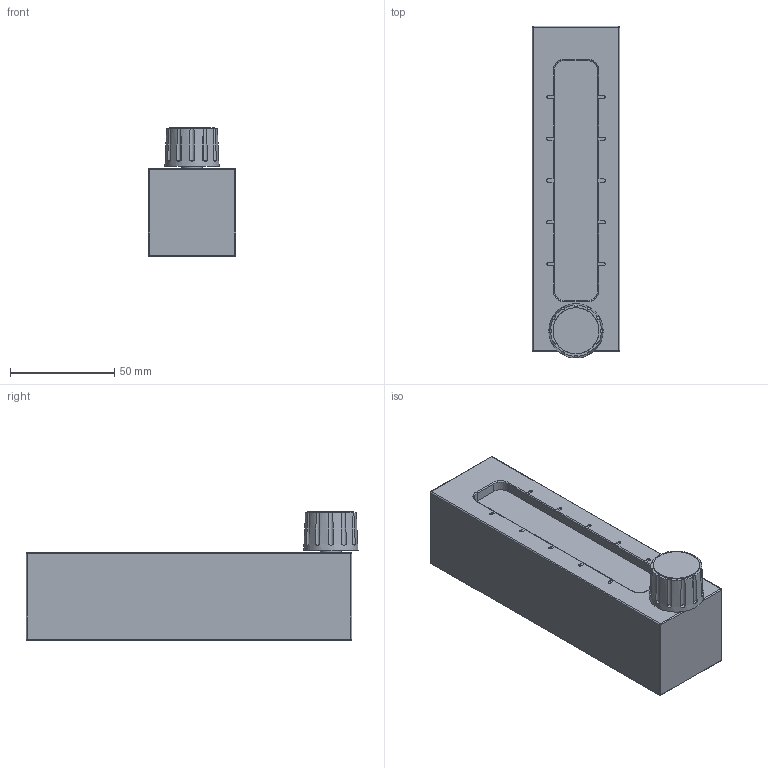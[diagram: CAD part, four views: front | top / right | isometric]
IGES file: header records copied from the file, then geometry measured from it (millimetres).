
Global section: file name: Y:\_LCPD Drawings\13.1 Lightweight Models\8003\STRAIGHTNESS REFLECTOR\STRAIGHTNESS REFLECTOR.igs; native system: NX V7.5; preprocessor: SIEMENS PLM Software NX 7.5; date: 20110720.142052; units: millimetre
Bounding box: 42 x 159 x 61.5 mm (x, y, z)
Surface area: 34132.1 mm2 (no closed solid volume)
Topology: 0 solids, 0 shells, 494 faces, 2859 edges, 2832 vertices
Faces by surface type: bspline 494
